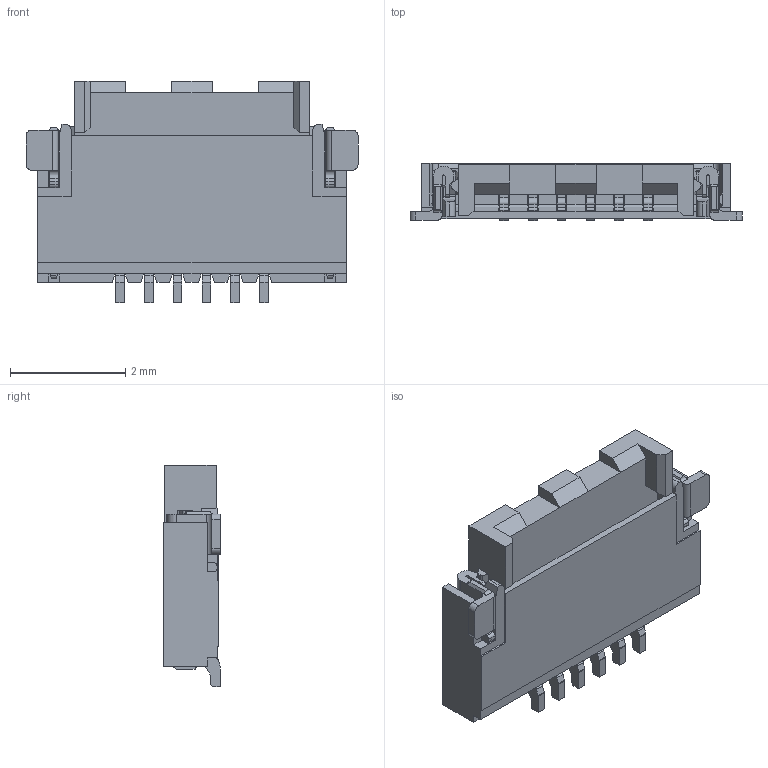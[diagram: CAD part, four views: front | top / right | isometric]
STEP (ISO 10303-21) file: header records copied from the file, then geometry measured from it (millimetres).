
FILE_DESCRIPTION((''),'2;1');
FILE_NAME('S-52544-006XX-XXX','2023-05-30T',('k94553'),(''),'PRO/ENGINEER BY PARAMETRIC TECHNOLOGY CORPORATION, 2012010','PRO/ENGINEER BY PARAMETRIC TECHNOLOGY CORPORATION, 2012010','');
FILE_SCHEMA(('CONFIG_CONTROL_DESIGN'));
Length unit declared in the file: millimetre
Products named in the file (1): S-52544-006XX-XXX
Bounding box: 5.77 x 0.99 x 3.85 mm (x, y, z)
Volume: 10.9 mm3; surface area: 112.6 mm2
Topology: 1 solids, 1 shells, 873 faces, 2726 edges, 1782 vertices
Faces by surface type: plane 602, cylinder 271
Entity records: 30324 total; most frequent: ORIENTED_EDGE 5452, CARTESIAN_POINT 5449, DIRECTION 5036, EDGE_CURVE 2726, VECTOR 2126, LINE 2126, VERTEX_POINT 1782, AXIS2_PLACEMENT_3D 1455
